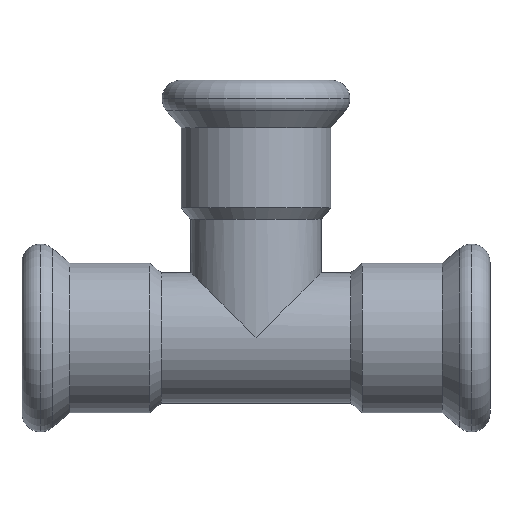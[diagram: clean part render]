
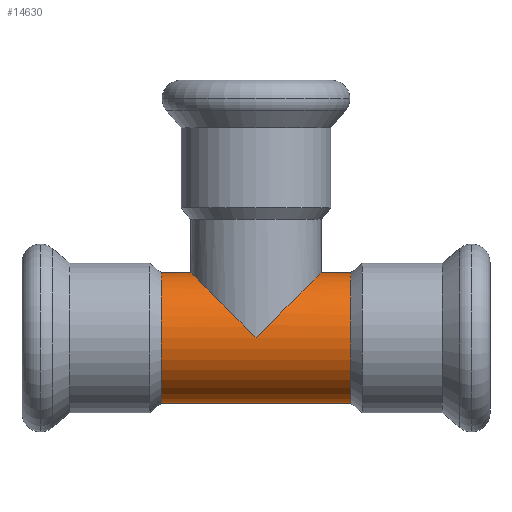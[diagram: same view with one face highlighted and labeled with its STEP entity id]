
A CAD part, top view. The second image highlights one B-rep face of the part: STEP entity #14630.
In plain terms, the highlighted cylindrical face has radius 11 mm (diameter 22 mm), a partial arc.
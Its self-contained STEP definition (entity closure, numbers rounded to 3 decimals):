
#13850=CARTESIAN_POINT('',(-330.291,32.435,0.));
#13860=VERTEX_POINT('',#13850);
#13950=CARTESIAN_POINT('',(-308.291,32.435,
0.));
#13960=VERTEX_POINT('',#13950);
#13990=CARTESIAN_POINT('',(-319.291,21.435,0.));
#14000=DIRECTION('',(-0.707,0.707,0.));
#14010=DIRECTION('',(0.707,0.707,0.));
#14020=AXIS2_PLACEMENT_3D('',#13990,#14000,#14010);
#14030=ELLIPSE('',#14020,15.556,11.);
#14040=CARTESIAN_POINT('',(-319.291,21.435,11.));
#14050=VERTEX_POINT('',#14040);
#14060=EDGE_CURVE('',#14050,#13960,#14030,.T.);
#14080=CARTESIAN_POINT('',(-319.291,21.435,0.));
#14090=DIRECTION('',(0.707,0.707,0.));
#14100=DIRECTION('',(-0.707,0.707,0.));
#14110=AXIS2_PLACEMENT_3D('',#14080,#14090,#14100);
#14120=ELLIPSE('',#14110,15.556,11.);
#14130=EDGE_CURVE('',#13860,#14050,#14120,.T.);
#14180=CARTESIAN_POINT('',(-335.291,21.435,0.));
#14190=DIRECTION('',(-1.,0.,0.));
#14200=DIRECTION('',(0.,1.,0.));
#14210=AXIS2_PLACEMENT_3D('',#14180,#14190,#14200);
#14220=CYLINDRICAL_SURFACE('',#14210,11.);
#14230=CARTESIAN_POINT('',(-335.291,10.435,
0.));
#14240=DIRECTION('',(-1.,0.,0.));
#14250=VECTOR('',#14240,1.);
#14260=LINE('',#14230,#14250);
#14270=CARTESIAN_POINT('',(-303.291,10.435,
0.));
#14280=VERTEX_POINT('',#14270);
#14290=CARTESIAN_POINT('',(-335.291,10.435,
0.));
#14300=VERTEX_POINT('',#14290);
#14310=EDGE_CURVE('',#14280,#14300,#14260,.T.);
#14320=ORIENTED_EDGE('',*,*,#14310,.F.);
#14330=CARTESIAN_POINT('',(-335.291,21.435,0.));
#14340=DIRECTION('',(-1.,0.,0.));
#14350=DIRECTION('',(0.,-1.,0.));
#14360=AXIS2_PLACEMENT_3D('',#14330,#14340,#14350);
#14370=CIRCLE('',#14360,11.);
#14380=CARTESIAN_POINT('',(-335.291,32.435,0.));
#14390=VERTEX_POINT('',#14380);
#14400=EDGE_CURVE('',#14300,#14390,#14370,.T.);
#14410=ORIENTED_EDGE('',*,*,#14400,.F.);
#14420=CARTESIAN_POINT('',(-335.291,32.435,0.));
#14430=DIRECTION('',(-1.,0.,0.));
#14440=VECTOR('',#14430,1.);
#14450=LINE('',#14420,#14440);
#14460=EDGE_CURVE('',#13860,#14390,#14450,.T.);
#14470=ORIENTED_EDGE('',*,*,#14460,.T.);
#14480=ORIENTED_EDGE('',*,*,#14130,.F.);
#14490=ORIENTED_EDGE('',*,*,#14060,.F.);
#14500=CARTESIAN_POINT('',(-303.291,32.435,0.));
#14510=VERTEX_POINT('',#14500);
#14520=EDGE_CURVE('',#14510,#13960,#14450,.T.);
#14530=ORIENTED_EDGE('',*,*,#14520,.T.);
#14540=CARTESIAN_POINT('',(-303.291,21.435,0.));
#14550=DIRECTION('',(-1.,0.,0.));
#14560=DIRECTION('',(0.,1.,0.));
#14570=AXIS2_PLACEMENT_3D('',#14540,#14550,#14560);
#14580=CIRCLE('',#14570,11.);
#14590=EDGE_CURVE('',#14280,#14510,#14580,.T.);
#14600=ORIENTED_EDGE('',*,*,#14590,.T.);
#14610=EDGE_LOOP('',(#14600,#14530,#14490,#14480,#14470,#14410,#14320));
#14620=FACE_OUTER_BOUND('',#14610,.T.);
#14630=ADVANCED_FACE('',(#14620),#14220,.T.);
